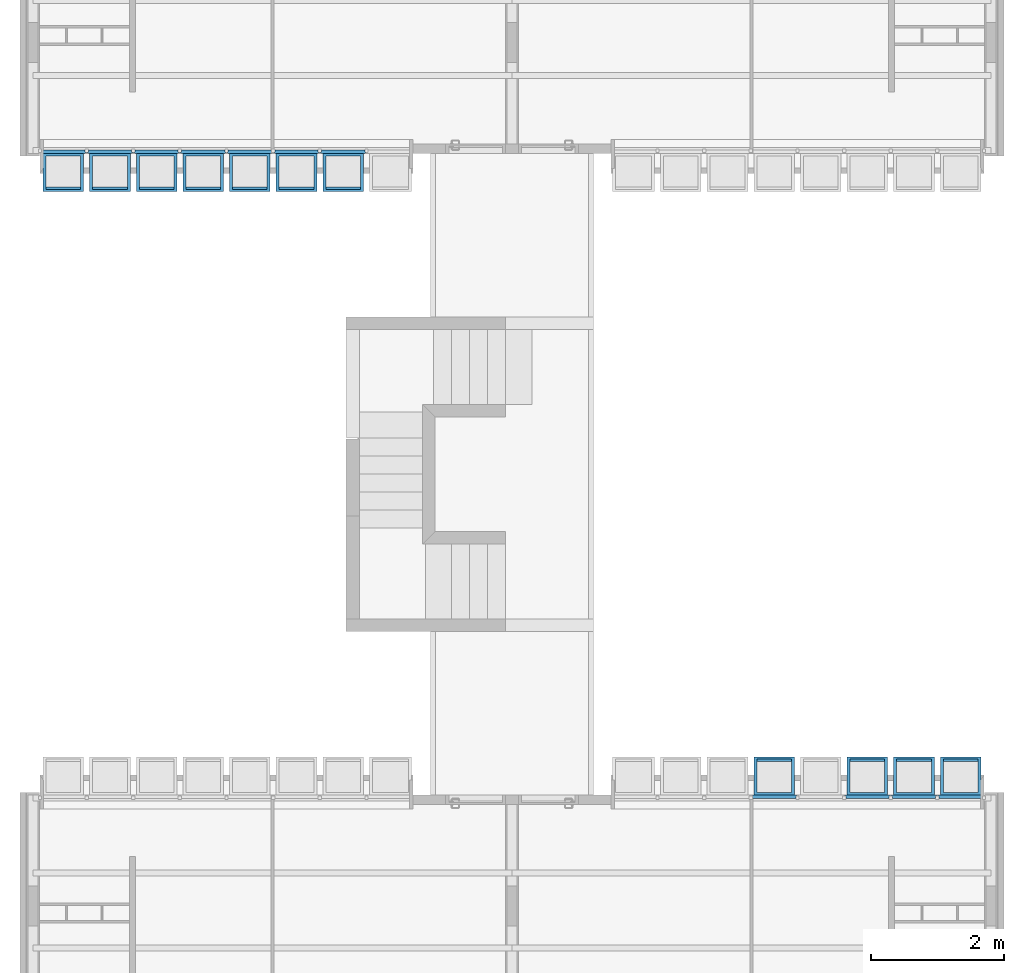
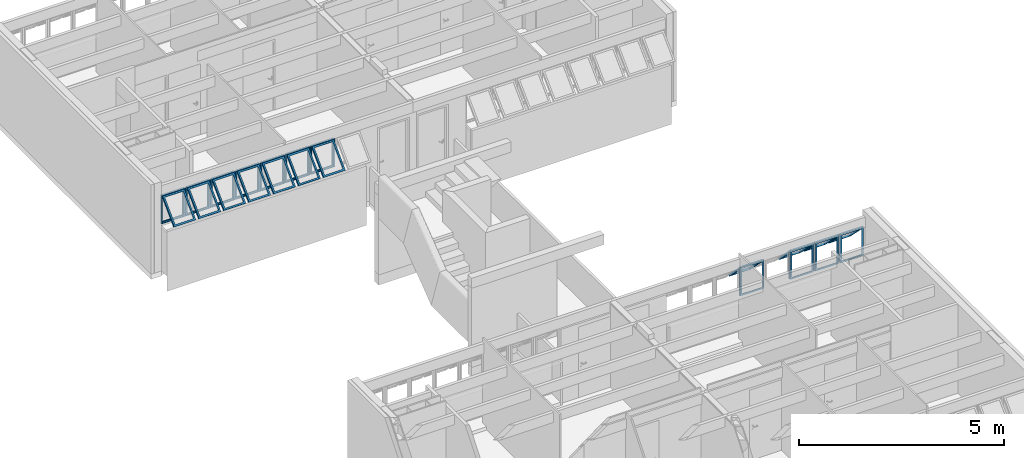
# One storey, part 30 of 37: 11 building element parts, 13 elements without a shape of their own.
"""IFC2X3 building model written with IfcOpenShell, lengths in millimetres."""

from ifc_helpers import new_model, entity, si_unit, converted_unit, derived_unit, money_unit, direction, frame, origin_with_axes, place, context, subcontext, project, spatial, faceted_brep, source, transform, mapped, material, type_object, element, aggregate, save


model = new_model("IFC2X3")

# Units and contexts
model_context = context("Model", 3, precision=0.01, world=origin_with_axes(), true_north=direction((0.0, 1.0)))
body_context = subcontext(model_context, "Body", "Model", "MODEL_VIEW")
ifc_project = project(units=[si_unit("LENGTHUNIT", "METRE", prefix="MILLI"), si_unit("AREAUNIT", "SQUARE_METRE"), si_unit("VOLUMEUNIT", "CUBIC_METRE"), converted_unit("PLANEANGLEUNIT", "DEGREE", entity("IfcPlaneAngleMeasure", 0.0174532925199), si_unit("PLANEANGLEUNIT", "RADIAN"), dimensions=[0, 0, 0, 0, 0, 0, 0]), money_unit("USD"), converted_unit("TIMEUNIT", "Year", entity("IfcTimeMeasure", 31556926.0), si_unit("TIMEUNIT", "SECOND"), dimensions=[0, 0, 1, 0, 0, 0, 0]), si_unit("MASSUNIT", "GRAM", prefix="KILO"), si_unit("THERMODYNAMICTEMPERATUREUNIT", "DEGREE_CELSIUS"), si_unit("LUMINOUSINTENSITYUNIT", "LUMEN"), si_unit("ENERGYUNIT", "JOULE", prefix="MEGA"), derived_unit("THERMALCONDUCTANCEUNIT", [(si_unit("POWERUNIT", "WATT"), 1), (si_unit("LENGTHUNIT", "METRE"), -1), (si_unit("THERMODYNAMICTEMPERATUREUNIT", "KELVIN"), -1)]), derived_unit("SPECIFICHEATCAPACITYUNIT", [(si_unit("ENERGYUNIT", "JOULE"), 1), (si_unit("MASSUNIT", "GRAM", prefix="KILO"), -1), (si_unit("THERMODYNAMICTEMPERATUREUNIT", "KELVIN"), -1)]), derived_unit("MASSDENSITYUNIT", [(si_unit("MASSUNIT", "GRAM", prefix="KILO"), 1), (si_unit("VOLUMEUNIT", "CUBIC_METRE"), -1)])], contexts=[model_context])

# Site, building, storey
site_placement = place(None, origin_with_axes())
site = spatial("IfcSite", under=ifc_project, at=site_placement, Name="Local", CompositionType="ELEMENT")
building_placement = place(site_placement, origin_with_axes())
building = spatial("IfcBuilding", under=site, at=building_placement, Name="Construção", CompositionType="ELEMENT")
storey_placement = place(building_placement, origin_with_axes())
storey = spatial("IfcBuildingStorey", under=building, at=storey_placement, Name="Primeiro Pavimento", CompositionType="ELEMENT", Elevation=0.0)

# Window, plates, building element parts
window_style = type_object("IfcWindowStyle", Name="Tipo de Parede Cortina", ConstructionType="NOTDEFINED", OperationType="NOTDEFINED", ParameterTakesPrecedence=False, Sizeable=False)
window_1_placement = place(storey_placement, frame((2750.0, 17910.0, 1355.00007107), z_axis=(0.0, 0.0, 1.0), x_axis=(1.0, 0.0, 0.0)))
window_1 = element("IfcWindow", 1, at=window_1_placement, inside=storey, type_object=window_style, Name="APTO3-JANELA-000")
plate_type = type_object("IfcPlateType", Name="Painel Principal 690 x 845 x 20", PredefinedType="CURTAIN_PANEL")
plate_1_placement = place(window_1_placement, frame((0.0, 0.0, 422.499964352), z_axis=(0.0, 0.0, 1.0), x_axis=(-1.0, 0.0, 0.0)))
plate_1 = element("IfcPlate", 2, at=plate_1_placement, type_object=plate_type, Name="APTO3-Painel-Prin-013")
ifc_material = material(Name="Alumínio")
shared_shape_1 = source(origin_with_axes(), body_context, "Body", "Brep", [
    faceted_brep([(25.0000036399, 0.0, -40.0), (674.999997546, 0.0, -40.0), (674.999997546, 0.0, -35.0), (25.0000036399, 0.0, -35.0), (70.0000036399, 45.0, -40.0), (629.999997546, 45.0, -40.0), (629.999997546, 45.0, -35.0), (70.0000036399, 45.0, -35.0)], [[[0, 1, 2, 3]], [[0, 4, 5, 1]], [[1, 5, 6, 2]], [[3, 2, 6, 7]], [[4, 0, 3, 7]], [[5, 4, 7, 6]]]),
    faceted_brep([(674.999997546, 0.0, -40.0), (674.999997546, 844.999891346, -40.0), (674.999997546, 844.999891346, -35.0), (674.999997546, 0.0, -35.0), (629.999997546, 45.0, -40.0), (629.999997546, 799.999891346, -40.0), (629.999997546, 799.999891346, -35.0), (629.999997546, 45.0, -35.0)], [[[0, 1, 2, 3]], [[0, 4, 5, 1]], [[1, 5, 6, 2]], [[3, 2, 6, 7]], [[4, 0, 3, 7]], [[5, 4, 7, 6]]]),
    faceted_brep([(25.0000036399, 844.999891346, -40.0), (70.0000036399, 799.999891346, -40.0), (70.0000036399, 799.999891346, -35.0), (25.0000036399, 844.999891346, -35.0), (674.999997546, 844.999891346, -40.0), (629.999997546, 799.999891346, -40.0), (629.999997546, 799.999891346, -35.0), (674.999997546, 844.999891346, -35.0)], [[[0, 1, 2, 3]], [[0, 4, 5, 1]], [[1, 5, 6, 2]], [[3, 2, 6, 7]], [[4, 0, 3, 7]], [[5, 4, 7, 6]]]),
    faceted_brep([(25.0000036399, 0.0, -40.0), (70.0000036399, 45.0, -40.0), (70.0000036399, 45.0, -35.0), (25.0000036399, 0.0, -35.0), (25.0000036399, 844.999891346, -40.0), (70.0000036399, 799.999891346, -40.0), (70.0000036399, 799.999891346, -35.0), (25.0000036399, 844.999891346, -35.0)], [[[0, 1, 2, 3]], [[0, 4, 5, 1]], [[1, 5, 6, 2]], [[3, 2, 6, 7]], [[4, 0, 3, 7]], [[5, 4, 7, 6]]]),
    faceted_brep([(25.0000036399, 0.0, -35.0), (674.999997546, 0.0, -35.0), (674.999997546, 0.0, 15.0), (25.0000036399, 0.0, 15.0), (45.0000036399, 20.0, -35.0), (654.999997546, 20.0, -35.0), (654.999997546, 20.0, 15.0), (45.0000036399, 20.0, 15.0)], [[[0, 1, 2, 3]], [[0, 4, 5, 1]], [[1, 5, 6, 2]], [[3, 2, 6, 7]], [[4, 0, 3, 7]], [[5, 4, 7, 6]]]),
    faceted_brep([(674.999997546, 0.0, -35.0), (674.999997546, 844.999891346, -35.0), (674.999997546, 844.999891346, 15.0), (674.999997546, 0.0, 15.0), (654.999997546, 20.0, -35.0), (654.999997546, 824.999891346, -35.0), (654.999997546, 824.999891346, 15.0), (654.999997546, 20.0, 15.0)], [[[0, 1, 2, 3]], [[0, 4, 5, 1]], [[1, 5, 6, 2]], [[3, 2, 6, 7]], [[4, 0, 3, 7]], [[5, 4, 7, 6]]]),
    faceted_brep([(25.0000036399, 844.999891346, -35.0), (45.0000036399, 824.999891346, -35.0), (45.0000036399, 824.999891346, 15.0), (25.0000036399, 844.999891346, 15.0), (674.999997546, 844.999891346, -35.0), (654.999997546, 824.999891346, -35.0), (654.999997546, 824.999891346, 15.0), (674.999997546, 844.999891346, 15.0)], [[[0, 1, 2, 3]], [[0, 4, 5, 1]], [[1, 5, 6, 2]], [[3, 2, 6, 7]], [[4, 0, 3, 7]], [[5, 4, 7, 6]]]),
    faceted_brep([(25.0000036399, 0.0, -35.0), (45.0000036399, 20.0, -35.0), (45.0000036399, 20.0, 15.0), (25.0000036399, 0.0, 15.0), (25.0000036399, 844.999891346, -35.0), (45.0000036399, 824.999891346, -35.0), (45.0000036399, 824.999891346, 15.0), (25.0000036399, 844.999891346, 15.0)], [[[0, 1, 2, 3]], [[0, 4, 5, 1]], [[1, 5, 6, 2]], [[3, 2, 6, 7]], [[4, 0, 3, 7]], [[5, 4, 7, 6]]]),
    faceted_brep([(694.999995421, 0.0, -10.0), (694.999995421, 844.999891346, -10.0), (694.999995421, 844.999891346, 10.0), (694.999995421, 0.0, 10.0), (674.999997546, 0.0, -10.0), (674.999997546, 844.999891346, -10.0), (674.999997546, 844.999891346, 10.0), (674.999997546, 0.0, 10.0)], [[[0, 1, 2, 3]], [[0, 4, 5, 1]], [[1, 5, 6, 2]], [[3, 2, 6, 7]], [[4, 0, 3, 7]], [[5, 4, 7, 6]]]),
    faceted_brep([(5.00000576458, 844.999891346, -10.0), (5.00000576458, 0.0, -10.0), (5.00000576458, 0.0, 10.0), (5.00000576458, 844.999891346, 10.0), (25.0000036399, 844.999891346, -10.0), (25.0000036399, 0.0, -10.0), (25.0000036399, 0.0, 10.0), (25.0000036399, 844.999891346, 10.0)], [[[0, 1, 2, 3]], [[0, 4, 5, 1]], [[1, 5, 6, 2]], [[3, 2, 6, 7]], [[4, 0, 3, 7]], [[5, 4, 7, 6]]]),
    faceted_brep([(90.0000036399, 252.243475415, 517.045737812), (90.0000036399, 757.824747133, 11.4644660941), (90.0000036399, 796.715620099, 50.3553390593), (90.0000036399, 291.13434838, 555.936610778), (45.0000036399, 220.423670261, 548.865542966), (45.0000036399, 789.644552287, -20.3553390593), (45.0000036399, 828.535425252, 18.5355339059), (45.0000036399, 259.314543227, 587.756415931)], [[[0, 1, 2, 3]], [[0, 4, 5, 1]], [[1, 5, 6, 2]], [[3, 2, 6, 7]], [[4, 0, 3, 7]], [[5, 4, 7, 6]]]),
    faceted_brep([(654.999997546, 220.423670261, 548.865542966), (654.999997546, 789.644552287, -20.3553390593), (654.999997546, 828.535425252, 18.5355339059), (654.999997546, 259.314543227, 587.756415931), (609.999997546, 252.243475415, 517.045737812), (609.999997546, 757.824747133, 11.4644660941), (609.999997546, 796.715620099, 50.3553390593), (609.999997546, 291.13434838, 555.936610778)], [[[0, 1, 2, 3]], [[0, 4, 5, 1]], [[1, 5, 6, 2]], [[3, 2, 6, 7]], [[4, 0, 3, 7]], [[5, 4, 7, 6]]]),
    faceted_brep([(654.999997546, 220.423670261, 548.865542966), (609.999997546, 252.243475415, 517.045737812), (609.999997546, 291.13434838, 555.936610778), (654.999997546, 259.314543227, 587.756415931), (45.0000036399, 220.423670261, 548.865542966), (90.0000036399, 252.243475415, 517.045737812), (90.0000036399, 291.13434838, 555.936610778), (45.0000036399, 259.314543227, 587.756415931)], [[[0, 1, 2, 3]], [[0, 4, 5, 1]], [[1, 5, 6, 2]], [[3, 2, 6, 7]], [[4, 0, 3, 7]], [[5, 4, 7, 6]]]),
    faceted_brep([(45.0000036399, 789.644552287, -20.3553390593), (90.0000036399, 757.824747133, 11.4644660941), (90.0000036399, 796.715620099, 50.3553390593), (45.0000036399, 828.535425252, 18.5355339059), (654.999997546, 789.644552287, -20.3553390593), (609.999997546, 757.824747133, 11.4644660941), (609.999997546, 796.715620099, 50.3553390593), (654.999997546, 828.535425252, 18.5355339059)], [[[0, 1, 2, 3]], [[0, 4, 5, 1]], [[1, 5, 6, 2]], [[3, 2, 6, 7]], [[4, 0, 3, 7]], [[5, 4, 7, 6]]]),
])
building_element_part_1_placement = place(plate_1_placement, origin_with_axes())
building_element_part_1 = element("IfcBuildingElementPart", 3, at=building_element_part_1_placement, material=ifc_material, Name="Alumínio", context=body_context, shape_type="MappedRepresentation", body=[
    mapped(shared_shape_1, transform((350.0, 0.0, -422.499964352), x_axis=(-1.0, 0.0, 0.0), y_axis=(0.0, 0.0, 1.0), z_axis=(0.0, 1.0, 0.0))),
])
aggregate(plate_1, [building_element_part_1])
plate_2_placement = place(window_1_placement, frame((2100.0, 0.0, 422.499964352), z_axis=(0.0, 0.0, 1.0), x_axis=(-1.0, 0.0, 0.0)))
plate_2 = element("IfcPlate", 4, at=plate_2_placement, type_object=plate_type, Name="APTO3-Painel-Prin-029")
building_element_part_2_placement = place(plate_2_placement, origin_with_axes())
building_element_part_2 = element("IfcBuildingElementPart", 5, at=building_element_part_2_placement, material=ifc_material, Name="Alumínio", context=body_context, shape_type="MappedRepresentation", body=[
    mapped(shared_shape_1, transform((350.0, 0.0, -422.499964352), x_axis=(-1.0, 0.0, 0.0), y_axis=(0.0, 0.0, 1.0), z_axis=(0.0, 1.0, 0.0))),
])
aggregate(plate_2, [building_element_part_2])

window_2_placement = place(storey_placement, frame((12020.0, 8250.0, 1355.00007107), z_axis=(0.0, 0.0, 1.0), x_axis=(1.0, 0.0, 0.0)))
window_2 = element("IfcWindow", 6, at=window_2_placement, inside=storey, type_object=window_style, Name="APTO2-JANELA-000")
plate_3_placement = place(window_2_placement, frame((2100.0, 0.0, 422.499998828), z_axis=(0.0, 0.0, 1.0), x_axis=(1.0, 0.0, 0.0)))
plate_3 = element("IfcPlate", 7, at=plate_3_placement, type_object=plate_type, Name="APTO2-Painel-Prin-013")
shared_shape_2 = source(origin_with_axes(), body_context, "Body", "Brep", [
    faceted_brep([(25.0000036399, 0.0, -40.0), (674.999997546, 0.0, -40.0), (674.999997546, 0.0, -35.0), (25.0000036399, 0.0, -35.0), (70.0000036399, 45.0, -40.0), (629.999997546, 45.0, -40.0), (629.999997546, 45.0, -35.0), (70.0000036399, 45.0, -35.0)], [[[0, 1, 2, 3]], [[0, 4, 5, 1]], [[1, 5, 6, 2]], [[3, 2, 6, 7]], [[4, 0, 3, 7]], [[5, 4, 7, 6]]]),
    faceted_brep([(674.999997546, 0.0, -40.0), (674.999997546, 844.999891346, -40.0), (674.999997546, 844.999891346, -35.0), (674.999997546, 0.0, -35.0), (629.999997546, 45.0, -40.0), (629.999997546, 799.999891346, -40.0), (629.999997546, 799.999891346, -35.0), (629.999997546, 45.0, -35.0)], [[[0, 1, 2, 3]], [[0, 4, 5, 1]], [[1, 5, 6, 2]], [[3, 2, 6, 7]], [[4, 0, 3, 7]], [[5, 4, 7, 6]]]),
    faceted_brep([(25.0000036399, 844.999891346, -40.0), (70.0000036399, 799.999891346, -40.0), (70.0000036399, 799.999891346, -35.0), (25.0000036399, 844.999891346, -35.0), (674.999997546, 844.999891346, -40.0), (629.999997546, 799.999891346, -40.0), (629.999997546, 799.999891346, -35.0), (674.999997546, 844.999891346, -35.0)], [[[0, 1, 2, 3]], [[0, 4, 5, 1]], [[1, 5, 6, 2]], [[3, 2, 6, 7]], [[4, 0, 3, 7]], [[5, 4, 7, 6]]]),
    faceted_brep([(25.0000036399, 0.0, -40.0), (70.0000036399, 45.0, -40.0), (70.0000036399, 45.0, -35.0), (25.0000036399, 0.0, -35.0), (25.0000036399, 844.999891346, -40.0), (70.0000036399, 799.999891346, -40.0), (70.0000036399, 799.999891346, -35.0), (25.0000036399, 844.999891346, -35.0)], [[[0, 1, 2, 3]], [[0, 4, 5, 1]], [[1, 5, 6, 2]], [[3, 2, 6, 7]], [[4, 0, 3, 7]], [[5, 4, 7, 6]]]),
    faceted_brep([(25.0000036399, 0.0, -35.0), (674.999997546, 0.0, -35.0), (674.999997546, 0.0, 15.0), (25.0000036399, 0.0, 15.0), (45.0000036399, 20.0, -35.0), (654.999997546, 20.0, -35.0), (654.999997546, 20.0, 15.0), (45.0000036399, 20.0, 15.0)], [[[0, 1, 2, 3]], [[0, 4, 5, 1]], [[1, 5, 6, 2]], [[3, 2, 6, 7]], [[4, 0, 3, 7]], [[5, 4, 7, 6]]]),
    faceted_brep([(674.999997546, 0.0, -35.0), (674.999997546, 844.999891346, -35.0), (674.999997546, 844.999891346, 15.0), (674.999997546, 0.0, 15.0), (654.999997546, 20.0, -35.0), (654.999997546, 824.999891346, -35.0), (654.999997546, 824.999891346, 15.0), (654.999997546, 20.0, 15.0)], [[[0, 1, 2, 3]], [[0, 4, 5, 1]], [[1, 5, 6, 2]], [[3, 2, 6, 7]], [[4, 0, 3, 7]], [[5, 4, 7, 6]]]),
    faceted_brep([(25.0000036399, 844.999891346, -35.0), (45.0000036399, 824.999891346, -35.0), (45.0000036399, 824.999891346, 15.0), (25.0000036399, 844.999891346, 15.0), (674.999997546, 844.999891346, -35.0), (654.999997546, 824.999891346, -35.0), (654.999997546, 824.999891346, 15.0), (674.999997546, 844.999891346, 15.0)], [[[0, 1, 2, 3]], [[0, 4, 5, 1]], [[1, 5, 6, 2]], [[3, 2, 6, 7]], [[4, 0, 3, 7]], [[5, 4, 7, 6]]]),
    faceted_brep([(25.0000036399, 0.0, -35.0), (45.0000036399, 20.0, -35.0), (45.0000036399, 20.0, 15.0), (25.0000036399, 0.0, 15.0), (25.0000036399, 844.999891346, -35.0), (45.0000036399, 824.999891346, -35.0), (45.0000036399, 824.999891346, 15.0), (25.0000036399, 844.999891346, 15.0)], [[[0, 1, 2, 3]], [[0, 4, 5, 1]], [[1, 5, 6, 2]], [[3, 2, 6, 7]], [[4, 0, 3, 7]], [[5, 4, 7, 6]]]),
    faceted_brep([(694.999995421, 0.0, -10.0), (694.999995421, 844.999891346, -10.0), (694.999995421, 844.999891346, 10.0), (694.999995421, 0.0, 10.0), (674.999997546, 0.0, -10.0), (674.999997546, 844.999891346, -10.0), (674.999997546, 844.999891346, 10.0), (674.999997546, 0.0, 10.0)], [[[0, 1, 2, 3]], [[0, 4, 5, 1]], [[1, 5, 6, 2]], [[3, 2, 6, 7]], [[4, 0, 3, 7]], [[5, 4, 7, 6]]]),
    faceted_brep([(5.00000576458, 844.999891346, -10.0), (5.00000576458, 0.0, -10.0), (5.00000576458, 0.0, 10.0), (5.00000576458, 844.999891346, 10.0), (25.0000036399, 844.999891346, -10.0), (25.0000036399, 0.0, -10.0), (25.0000036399, 0.0, 10.0), (25.0000036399, 844.999891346, 10.0)], [[[0, 1, 2, 3]], [[0, 4, 5, 1]], [[1, 5, 6, 2]], [[3, 2, 6, 7]], [[4, 0, 3, 7]], [[5, 4, 7, 6]]]),
    faceted_brep([(90.0000036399, 252.243475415, 517.045737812), (90.0000036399, 757.824747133, 11.4644660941), (90.0000036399, 796.715620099, 50.3553390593), (90.0000036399, 291.13434838, 555.936610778), (45.0000036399, 220.423670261, 548.865542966), (45.0000036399, 789.644552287, -20.3553390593), (45.0000036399, 828.535425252, 18.5355339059), (45.0000036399, 259.314543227, 587.756415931)], [[[0, 1, 2, 3]], [[0, 4, 5, 1]], [[1, 5, 6, 2]], [[3, 2, 6, 7]], [[4, 0, 3, 7]], [[5, 4, 7, 6]]]),
    faceted_brep([(654.999997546, 220.423670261, 548.865542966), (654.999997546, 789.644552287, -20.3553390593), (654.999997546, 828.535425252, 18.5355339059), (654.999997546, 259.314543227, 587.756415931), (609.999997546, 252.243475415, 517.045737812), (609.999997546, 757.824747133, 11.4644660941), (609.999997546, 796.715620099, 50.3553390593), (609.999997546, 291.13434838, 555.936610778)], [[[0, 1, 2, 3]], [[0, 4, 5, 1]], [[1, 5, 6, 2]], [[3, 2, 6, 7]], [[4, 0, 3, 7]], [[5, 4, 7, 6]]]),
    faceted_brep([(654.999997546, 220.423670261, 548.865542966), (609.999997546, 252.243475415, 517.045737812), (609.999997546, 291.13434838, 555.936610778), (654.999997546, 259.314543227, 587.756415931), (45.0000036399, 220.423670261, 548.865542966), (90.0000036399, 252.243475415, 517.045737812), (90.0000036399, 291.13434838, 555.936610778), (45.0000036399, 259.314543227, 587.756415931)], [[[0, 1, 2, 3]], [[0, 4, 5, 1]], [[1, 5, 6, 2]], [[3, 2, 6, 7]], [[4, 0, 3, 7]], [[5, 4, 7, 6]]]),
    faceted_brep([(45.0000036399, 789.644552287, -20.3553390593), (90.0000036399, 757.824747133, 11.4644660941), (90.0000036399, 796.715620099, 50.3553390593), (45.0000036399, 828.535425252, 18.5355339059), (654.999997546, 789.644552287, -20.3553390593), (609.999997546, 757.824747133, 11.4644660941), (609.999997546, 796.715620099, 50.3553390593), (654.999997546, 828.535425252, 18.5355339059)], [[[0, 1, 2, 3]], [[0, 4, 5, 1]], [[1, 5, 6, 2]], [[3, 2, 6, 7]], [[4, 0, 3, 7]], [[5, 4, 7, 6]]]),
])
building_element_part_3_placement = place(plate_3_placement, origin_with_axes())
building_element_part_3 = element("IfcBuildingElementPart", 8, at=building_element_part_3_placement, material=ifc_material, Name="Alumínio", context=body_context, shape_type="MappedRepresentation", body=[
    mapped(shared_shape_2, transform((350.0, 0.0, -422.499998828), x_axis=(-1.0, 0.0, 0.0), y_axis=(0.0, 0.0, 1.0), z_axis=(0.0, 1.0, 0.0))),
])
aggregate(plate_3, [building_element_part_3])
plate_4_placement = place(window_2_placement, frame((1400.0, 0.0, 422.499964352), z_axis=(0.0, 0.0, 1.0), x_axis=(1.0, 0.0, 0.0)))
plate_4 = element("IfcPlate", 9, at=plate_4_placement, type_object=plate_type, Name="APTO2-Painel-Prin-013")
building_element_part_4_placement = place(plate_4_placement, origin_with_axes())
building_element_part_4 = element("IfcBuildingElementPart", 10, at=building_element_part_4_placement, material=ifc_material, Name="Alumínio", context=body_context, shape_type="MappedRepresentation", body=[
    mapped(shared_shape_2, transform((350.0, 0.0, -422.499964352), x_axis=(-1.0, 0.0, 0.0), y_axis=(0.0, 0.0, 1.0), z_axis=(0.0, 1.0, 0.0))),
])
aggregate(plate_4, [building_element_part_4])

# Plate, building element part
plate_5_placement = place(window_1_placement, frame((-2100.0, 0.0, 422.499998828), z_axis=(0.0, 0.0, 1.0), x_axis=(-1.0, 0.0, 0.0)))
plate_5 = element("IfcPlate", 11, at=plate_5_placement, type_object=plate_type, Name="APTO3-Painel-Prin-013")
building_element_part_5_placement = place(plate_5_placement, origin_with_axes())
building_element_part_5 = element("IfcBuildingElementPart", 12, at=building_element_part_5_placement, material=ifc_material, Name="Alumínio", context=body_context, shape_type="MappedRepresentation", body=[
    mapped(shared_shape_2, transform((350.0, 0.0, -422.499998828), x_axis=(-1.0, 0.0, 0.0), y_axis=(0.0, 0.0, 1.0), z_axis=(0.0, 1.0, 0.0))),
])
aggregate(plate_5, [building_element_part_5])

plate_6_placement = place(window_1_placement, frame((-1400.0, 0.0, 422.499964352), z_axis=(0.0, 0.0, 1.0), x_axis=(-1.0, 0.0, 0.0)))
plate_6 = element("IfcPlate", 13, at=plate_6_placement, type_object=plate_type, Name="APTO3-Painel-Prin-013")
building_element_part_6_placement = place(plate_6_placement, origin_with_axes())
building_element_part_6 = element("IfcBuildingElementPart", 14, at=building_element_part_6_placement, material=ifc_material, Name="Alumínio", context=body_context, shape_type="MappedRepresentation", body=[
    mapped(shared_shape_2, transform((350.0, 0.0, -422.499964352), x_axis=(-1.0, 0.0, 0.0), y_axis=(0.0, 0.0, 1.0), z_axis=(0.0, 1.0, 0.0))),
])
aggregate(plate_6, [building_element_part_6])

plate_7_placement = place(window_1_placement, frame((1400.0, 0.0, 422.499964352), z_axis=(0.0, 0.0, 1.0), x_axis=(-1.0, 0.0, 0.0)))
plate_7 = element("IfcPlate", 15, at=plate_7_placement, type_object=plate_type, Name="APTO3-Painel-Prin-025")
building_element_part_7_placement = place(plate_7_placement, origin_with_axes())
building_element_part_7 = element("IfcBuildingElementPart", 16, at=building_element_part_7_placement, material=ifc_material, Name="Alumínio", context=body_context, shape_type="MappedRepresentation", body=[
    mapped(shared_shape_2, transform((350.0, 0.0, -422.499964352), x_axis=(-1.0, 0.0, 0.0), y_axis=(0.0, 0.0, 1.0), z_axis=(0.0, 1.0, 0.0))),
])
aggregate(plate_7, [building_element_part_7])

plate_8_placement = place(window_2_placement, frame((-700.0, 0.0, 422.499964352), z_axis=(0.0, 0.0, 1.0), x_axis=(1.0, 0.0, 0.0)))
plate_8 = element("IfcPlate", 17, at=plate_8_placement, type_object=plate_type, Name="APTO2-Painel-Prin-013")
shared_shape_3 = source(origin_with_axes(), body_context, "Body", "Brep", [
    faceted_brep([(25.0000036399, 0.0, -40.0), (674.999997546, 0.0, -40.0), (674.999997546, 0.0, -35.0), (25.0000036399, 0.0, -35.0), (70.0000036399, 45.0, -40.0), (629.999997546, 45.0, -40.0), (629.999997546, 45.0, -35.0), (70.0000036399, 45.0, -35.0)], [[[0, 1, 2, 3]], [[0, 4, 5, 1]], [[1, 5, 6, 2]], [[3, 2, 6, 7]], [[4, 0, 3, 7]], [[5, 4, 7, 6]]]),
    faceted_brep([(674.999997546, 0.0, -40.0), (674.999997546, 844.999891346, -40.0), (674.999997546, 844.999891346, -35.0), (674.999997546, 0.0, -35.0), (629.999997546, 45.0, -40.0), (629.999997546, 799.999891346, -40.0), (629.999997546, 799.999891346, -35.0), (629.999997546, 45.0, -35.0)], [[[0, 1, 2, 3]], [[0, 4, 5, 1]], [[1, 5, 6, 2]], [[3, 2, 6, 7]], [[4, 0, 3, 7]], [[5, 4, 7, 6]]]),
    faceted_brep([(25.0000036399, 844.999891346, -40.0), (70.0000036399, 799.999891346, -40.0), (70.0000036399, 799.999891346, -35.0), (25.0000036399, 844.999891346, -35.0), (674.999997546, 844.999891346, -40.0), (629.999997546, 799.999891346, -40.0), (629.999997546, 799.999891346, -35.0), (674.999997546, 844.999891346, -35.0)], [[[0, 1, 2, 3]], [[0, 4, 5, 1]], [[1, 5, 6, 2]], [[3, 2, 6, 7]], [[4, 0, 3, 7]], [[5, 4, 7, 6]]]),
    faceted_brep([(25.0000036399, 0.0, -40.0), (70.0000036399, 45.0, -40.0), (70.0000036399, 45.0, -35.0), (25.0000036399, 0.0, -35.0), (25.0000036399, 844.999891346, -40.0), (70.0000036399, 799.999891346, -40.0), (70.0000036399, 799.999891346, -35.0), (25.0000036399, 844.999891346, -35.0)], [[[0, 1, 2, 3]], [[0, 4, 5, 1]], [[1, 5, 6, 2]], [[3, 2, 6, 7]], [[4, 0, 3, 7]], [[5, 4, 7, 6]]]),
    faceted_brep([(25.0000036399, 0.0, -35.0), (674.999997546, 0.0, -35.0), (674.999997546, 0.0, 15.0), (25.0000036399, 0.0, 15.0), (45.0000036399, 20.0, -35.0), (654.999997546, 20.0, -35.0), (654.999997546, 20.0, 15.0), (45.0000036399, 20.0, 15.0)], [[[0, 1, 2, 3]], [[0, 4, 5, 1]], [[1, 5, 6, 2]], [[3, 2, 6, 7]], [[4, 0, 3, 7]], [[5, 4, 7, 6]]]),
    faceted_brep([(674.999997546, 0.0, -35.0), (674.999997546, 844.999891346, -35.0), (674.999997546, 844.999891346, 15.0), (674.999997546, 0.0, 15.0), (654.999997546, 20.0, -35.0), (654.999997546, 824.999891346, -35.0), (654.999997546, 824.999891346, 15.0), (654.999997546, 20.0, 15.0)], [[[0, 1, 2, 3]], [[0, 4, 5, 1]], [[1, 5, 6, 2]], [[3, 2, 6, 7]], [[4, 0, 3, 7]], [[5, 4, 7, 6]]]),
    faceted_brep([(25.0000036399, 844.999891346, -35.0), (45.0000036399, 824.999891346, -35.0), (45.0000036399, 824.999891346, 15.0), (25.0000036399, 844.999891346, 15.0), (674.999997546, 844.999891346, -35.0), (654.999997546, 824.999891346, -35.0), (654.999997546, 824.999891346, 15.0), (674.999997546, 844.999891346, 15.0)], [[[0, 1, 2, 3]], [[0, 4, 5, 1]], [[1, 5, 6, 2]], [[3, 2, 6, 7]], [[4, 0, 3, 7]], [[5, 4, 7, 6]]]),
    faceted_brep([(25.0000036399, 0.0, -35.0), (45.0000036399, 20.0, -35.0), (45.0000036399, 20.0, 15.0), (25.0000036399, 0.0, 15.0), (25.0000036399, 844.999891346, -35.0), (45.0000036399, 824.999891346, -35.0), (45.0000036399, 824.999891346, 15.0), (25.0000036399, 844.999891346, 15.0)], [[[0, 1, 2, 3]], [[0, 4, 5, 1]], [[1, 5, 6, 2]], [[3, 2, 6, 7]], [[4, 0, 3, 7]], [[5, 4, 7, 6]]]),
    faceted_brep([(694.999995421, 0.0, -10.0), (694.999995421, 844.999891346, -10.0), (694.999995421, 844.999891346, 10.0), (694.999995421, 0.0, 10.0), (674.999997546, 0.0, -10.0), (674.999997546, 844.999891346, -10.0), (674.999997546, 844.999891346, 10.0), (674.999997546, 0.0, 10.0)], [[[0, 1, 2, 3]], [[0, 4, 5, 1]], [[1, 5, 6, 2]], [[3, 2, 6, 7]], [[4, 0, 3, 7]], [[5, 4, 7, 6]]]),
    faceted_brep([(5.00000576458, 844.999891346, -10.0), (5.00000576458, 0.0, -10.0), (5.00000576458, 0.0, 10.0), (5.00000576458, 844.999891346, 10.0), (25.0000036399, 844.999891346, -10.0), (25.0000036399, 0.0, -10.0), (25.0000036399, 0.0, 10.0), (25.0000036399, 844.999891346, 10.0)], [[[0, 1, 2, 3]], [[0, 4, 5, 1]], [[1, 5, 6, 2]], [[3, 2, 6, 7]], [[4, 0, 3, 7]], [[5, 4, 7, 6]]]),
    faceted_brep([(90.0000036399, 252.243475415, 517.045737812), (90.0000036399, 757.824747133, 11.4644660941), (90.0000036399, 796.715620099, 50.3553390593), (90.0000036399, 291.13434838, 555.936610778), (45.0000036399, 220.423670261, 548.865542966), (45.0000036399, 789.644552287, -20.3553390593), (45.0000036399, 828.535425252, 18.5355339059), (45.0000036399, 259.314543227, 587.756415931)], [[[0, 1, 2, 3]], [[0, 4, 5, 1]], [[1, 5, 6, 2]], [[3, 2, 6, 7]], [[4, 0, 3, 7]], [[5, 4, 7, 6]]]),
    faceted_brep([(654.999997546, 220.423670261, 548.865542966), (654.999997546, 789.644552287, -20.3553390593), (654.999997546, 828.535425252, 18.5355339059), (654.999997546, 259.314543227, 587.756415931), (609.999997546, 252.243475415, 517.045737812), (609.999997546, 757.824747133, 11.4644660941), (609.999997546, 796.715620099, 50.3553390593), (609.999997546, 291.13434838, 555.936610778)], [[[0, 1, 2, 3]], [[0, 4, 5, 1]], [[1, 5, 6, 2]], [[3, 2, 6, 7]], [[4, 0, 3, 7]], [[5, 4, 7, 6]]]),
    faceted_brep([(654.999997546, 220.423670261, 548.865542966), (609.999997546, 252.243475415, 517.045737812), (609.999997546, 291.13434838, 555.936610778), (654.999997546, 259.314543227, 587.756415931), (45.0000036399, 220.423670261, 548.865542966), (90.0000036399, 252.243475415, 517.045737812), (90.0000036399, 291.13434838, 555.936610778), (45.0000036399, 259.314543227, 587.756415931)], [[[0, 1, 2, 3]], [[0, 4, 5, 1]], [[1, 5, 6, 2]], [[3, 2, 6, 7]], [[4, 0, 3, 7]], [[5, 4, 7, 6]]]),
    faceted_brep([(45.0000036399, 789.644552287, -20.3553390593), (90.0000036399, 757.824747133, 11.4644660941), (90.0000036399, 796.715620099, 50.3553390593), (45.0000036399, 828.535425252, 18.5355339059), (654.999997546, 789.644552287, -20.3553390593), (609.999997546, 757.824747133, 11.4644660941), (609.999997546, 796.715620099, 50.3553390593), (654.999997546, 828.535425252, 18.5355339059)], [[[0, 1, 2, 3]], [[0, 4, 5, 1]], [[1, 5, 6, 2]], [[3, 2, 6, 7]], [[4, 0, 3, 7]], [[5, 4, 7, 6]]]),
])
building_element_part_8_placement = place(plate_8_placement, origin_with_axes())
building_element_part_8 = element("IfcBuildingElementPart", 18, at=building_element_part_8_placement, material=ifc_material, Name="Alumínio", context=body_context, shape_type="MappedRepresentation", body=[
    mapped(shared_shape_3, transform((350.0, 0.0, -422.499964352), x_axis=(-1.0, 0.0, 0.0), y_axis=(0.0, 0.0, 1.0), z_axis=(0.0, 1.0, 0.0))),
])
aggregate(plate_8, [building_element_part_8])

# Plate
plate_9_placement = place(window_2_placement, frame((700.0, 0.0, 422.499964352), z_axis=(0.0, 0.0, 1.0), x_axis=(1.0, 0.0, 0.0)))
plate_9 = element("IfcPlate", 19, at=plate_9_placement, type_object=plate_type, Name="APTO2-Painel-Prin-013")

aggregate(window_2, [plate_3, plate_4, plate_8, plate_9])

# Building element part
building_element_part_9_placement = place(plate_9_placement, origin_with_axes())
building_element_part_9 = element("IfcBuildingElementPart", 20, at=building_element_part_9_placement, material=ifc_material, Name="Alumínio", context=body_context, shape_type="MappedRepresentation", body=[
    mapped(shared_shape_3, transform((350.0, 0.0, -422.499964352), x_axis=(-1.0, 0.0, 0.0), y_axis=(0.0, 0.0, 1.0), z_axis=(0.0, 1.0, 0.0))),
])

aggregate(plate_9, [building_element_part_9])

# Plate, building element part
plate_10_placement = place(window_1_placement, frame((700.0, 0.0, 422.499964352), z_axis=(0.0, 0.0, 1.0), x_axis=(-1.0, 0.0, 0.0)))
plate_10 = element("IfcPlate", 21, at=plate_10_placement, type_object=plate_type, Name="APTO3-Painel-Prin-013")
building_element_part_10_placement = place(plate_10_placement, origin_with_axes())
building_element_part_10 = element("IfcBuildingElementPart", 22, at=building_element_part_10_placement, material=ifc_material, Name="Alumínio", context=body_context, shape_type="MappedRepresentation", body=[
    mapped(shared_shape_3, transform((350.0, 0.0, -422.499964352), x_axis=(-1.0, 0.0, 0.0), y_axis=(0.0, 0.0, 1.0), z_axis=(0.0, 1.0, 0.0))),
])
aggregate(plate_10, [building_element_part_10])

# Plate
plate_11_placement = place(window_1_placement, frame((-700.0, 0.0, 422.499964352), z_axis=(0.0, 0.0, 1.0), x_axis=(-1.0, 0.0, 0.0)))
plate_11 = element("IfcPlate", 23, at=plate_11_placement, type_object=plate_type, Name="APTO3-Painel-Prin-013")

aggregate(window_1, [plate_1, plate_2, plate_5, plate_6, plate_10, plate_7, plate_11])

# Building element part
building_element_part_11_placement = place(plate_11_placement, origin_with_axes())
building_element_part_11 = element("IfcBuildingElementPart", 24, at=building_element_part_11_placement, material=ifc_material, Name="Alumínio", context=body_context, shape_type="MappedRepresentation", body=[
    mapped(shared_shape_3, transform((350.0, 0.0, -422.499964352), x_axis=(-1.0, 0.0, 0.0), y_axis=(0.0, 0.0, 1.0), z_axis=(0.0, 1.0, 0.0))),
])

aggregate(plate_11, [building_element_part_11])

save(model, "model.ifc")
